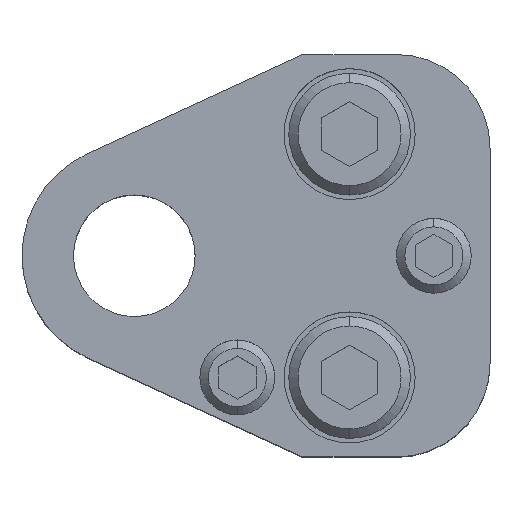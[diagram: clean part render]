
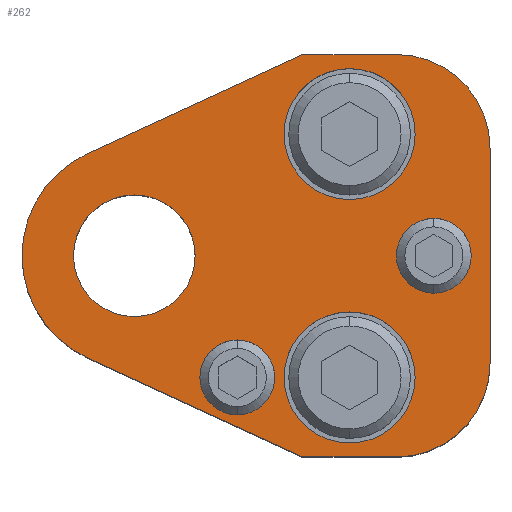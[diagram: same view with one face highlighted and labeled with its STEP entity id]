
A CAD part, top view. The second image highlights one B-rep face of the part: STEP entity #262.
In plain terms, the highlighted planar face has unit normal (0, 0, 1).
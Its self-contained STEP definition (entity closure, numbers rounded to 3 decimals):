
#149=FACE_BOUND('',#571,.T.);
#150=FACE_BOUND('',#572,.T.);
#151=FACE_BOUND('',#573,.T.);
#152=FACE_BOUND('',#574,.T.);
#153=FACE_BOUND('',#575,.T.);
#154=FACE_BOUND('',#576,.T.);
#189=PLANE('',#2275);
#262=ADVANCED_FACE('',(#149,#150,#151,#152,#153,#154),#189,.T.);
#571=EDGE_LOOP('',(#925,#926,#927,#928,#929,#930,#931,#932));
#572=EDGE_LOOP('',(#933,#934));
#573=EDGE_LOOP('',(#935,#936));
#574=EDGE_LOOP('',(#937,#938));
#575=EDGE_LOOP('',(#939,#940));
#576=EDGE_LOOP('',(#941,#942));
#703=CIRCLE('',#2218,12.);
#705=CIRCLE('',#2223,10.);
#707=CIRCLE('',#2227,10.);
#725=CIRCLE('',#2255,7.);
#728=CIRCLE('',#2259,7.);
#729=CIRCLE('',#2262,7.);
#732=CIRCLE('',#2266,7.);
#733=CIRCLE('',#2269,4.);
#734=CIRCLE('',#2270,4.);
#735=CIRCLE('',#2271,4.);
#736=CIRCLE('',#2272,4.);
#737=CIRCLE('',#2273,6.5);
#738=CIRCLE('',#2274,6.5);
#925=ORIENTED_EDGE('',*,*,#1598,.T.);
#926=ORIENTED_EDGE('',*,*,#1602,.T.);
#927=ORIENTED_EDGE('',*,*,#1605,.T.);
#928=ORIENTED_EDGE('',*,*,#1608,.T.);
#929=ORIENTED_EDGE('',*,*,#1611,.T.);
#930=ORIENTED_EDGE('',*,*,#1614,.T.);
#931=ORIENTED_EDGE('',*,*,#1617,.T.);
#932=ORIENTED_EDGE('',*,*,#1620,.T.);
#933=ORIENTED_EDGE('',*,*,#1655,.F.);
#934=ORIENTED_EDGE('',*,*,#1656,.F.);
#935=ORIENTED_EDGE('',*,*,#1657,.F.);
#936=ORIENTED_EDGE('',*,*,#1658,.F.);
#937=ORIENTED_EDGE('',*,*,#1654,.F.);
#938=ORIENTED_EDGE('',*,*,#1650,.F.);
#939=ORIENTED_EDGE('',*,*,#1648,.F.);
#940=ORIENTED_EDGE('',*,*,#1644,.F.);
#941=ORIENTED_EDGE('',*,*,#1659,.F.);
#942=ORIENTED_EDGE('',*,*,#1660,.F.);
#1412=VERTEX_POINT('',#3164);
#1413=VERTEX_POINT('',#3166);
#1416=VERTEX_POINT('',#3173);
#1418=VERTEX_POINT('',#3179);
#1420=VERTEX_POINT('',#3185);
#1422=VERTEX_POINT('',#3191);
#1424=VERTEX_POINT('',#3197);
#1426=VERTEX_POINT('',#3203);
#1443=VERTEX_POINT('',#3256);
#1445=VERTEX_POINT('',#3259);
#1447=VERTEX_POINT('',#3269);
#1449=VERTEX_POINT('',#3272);
#1451=VERTEX_POINT('',#3282);
#1452=VERTEX_POINT('',#3283);
#1453=VERTEX_POINT('',#3286);
#1454=VERTEX_POINT('',#3287);
#1455=VERTEX_POINT('',#3290);
#1456=VERTEX_POINT('',#3291);
#1598=EDGE_CURVE('',#1413,#1412,#703,.T.);
#1602=EDGE_CURVE('',#1412,#1416,#1892,.T.);
#1605=EDGE_CURVE('',#1416,#1418,#1895,.T.);
#1608=EDGE_CURVE('',#1418,#1420,#705,.T.);
#1611=EDGE_CURVE('',#1420,#1422,#1899,.T.);
#1614=EDGE_CURVE('',#1422,#1424,#707,.T.);
#1617=EDGE_CURVE('',#1424,#1426,#1903,.T.);
#1620=EDGE_CURVE('',#1426,#1413,#1906,.T.);
#1644=EDGE_CURVE('',#1443,#1445,#725,.T.);
#1648=EDGE_CURVE('',#1445,#1443,#728,.T.);
#1650=EDGE_CURVE('',#1447,#1449,#729,.T.);
#1654=EDGE_CURVE('',#1449,#1447,#732,.T.);
#1655=EDGE_CURVE('',#1451,#1452,#733,.T.);
#1656=EDGE_CURVE('',#1452,#1451,#734,.T.);
#1657=EDGE_CURVE('',#1453,#1454,#735,.T.);
#1658=EDGE_CURVE('',#1454,#1453,#736,.T.);
#1659=EDGE_CURVE('',#1455,#1456,#737,.T.);
#1660=EDGE_CURVE('',#1456,#1455,#738,.T.);
#1892=LINE('',#3174,#2056);
#1895=LINE('',#3180,#2059);
#1899=LINE('',#3192,#2063);
#1903=LINE('',#3204,#2067);
#1906=LINE('',#3208,#2070);
#2056=VECTOR('',#2488,1.);
#2059=VECTOR('',#2493,1.);
#2063=VECTOR('',#2505,1.);
#2067=VECTOR('',#2517,1.);
#2070=VECTOR('',#2522,1.);
#2218=AXIS2_PLACEMENT_3D('',#3165,#2480,#2481);
#2223=AXIS2_PLACEMENT_3D('',#3186,#2498,#2499);
#2227=AXIS2_PLACEMENT_3D('',#3198,#2510,#2511);
#2255=AXIS2_PLACEMENT_3D('',#3258,#2578,#2579);
#2259=AXIS2_PLACEMENT_3D('',#3265,#2587,#2588);
#2262=AXIS2_PLACEMENT_3D('',#3271,#2594,#2595);
#2266=AXIS2_PLACEMENT_3D('',#3278,#2603,#2604);
#2269=AXIS2_PLACEMENT_3D('',#3281,#2609,#2610);
#2270=AXIS2_PLACEMENT_3D('',#3284,#2611,#2612);
#2271=AXIS2_PLACEMENT_3D('',#3285,#2613,#2614);
#2272=AXIS2_PLACEMENT_3D('',#3288,#2615,#2616);
#2273=AXIS2_PLACEMENT_3D('',#3289,#2617,#2618);
#2274=AXIS2_PLACEMENT_3D('',#3292,#2619,#2620);
#2275=AXIS2_PLACEMENT_3D('',#3293,#2621,#2622);
#2480=DIRECTION('',(0.,0.,1.));
#2481=DIRECTION('',(0.,1.,0.));
#2488=DIRECTION('',(0.908,-0.418,0.));
#2493=DIRECTION('',(1.,0.,0.));
#2498=DIRECTION('',(0.,0.,1.));
#2499=DIRECTION('',(-0.707,0.707,0.));
#2505=DIRECTION('',(0.,1.,0.));
#2510=DIRECTION('',(0.,0.,1.));
#2511=DIRECTION('',(-0.707,-0.707,0.));
#2517=DIRECTION('',(-1.,0.,0.));
#2522=DIRECTION('',(-0.908,-0.418,0.));
#2578=DIRECTION('',(0.,0.,1.));
#2579=DIRECTION('',(-1.,0.,0.));
#2587=DIRECTION('',(0.,0.,1.));
#2588=DIRECTION('',(1.,0.,0.));
#2594=DIRECTION('',(0.,0.,1.));
#2595=DIRECTION('',(-1.,0.,0.));
#2603=DIRECTION('',(0.,0.,1.));
#2604=DIRECTION('',(1.,0.,0.));
#2609=DIRECTION('',(0.,0.,1.));
#2610=DIRECTION('',(1.,0.,0.));
#2611=DIRECTION('',(0.,0.,1.));
#2612=DIRECTION('',(-1.,0.,0.));
#2613=DIRECTION('',(0.,0.,1.));
#2614=DIRECTION('',(1.,0.,0.));
#2615=DIRECTION('',(0.,0.,1.));
#2616=DIRECTION('',(-1.,0.,0.));
#2617=DIRECTION('',(0.,0.,1.));
#2618=DIRECTION('',(-1.,0.,0.));
#2619=DIRECTION('',(0.,0.,1.));
#2620=DIRECTION('',(1.,0.,0.));
#2621=DIRECTION('',(0.,0.,1.));
#2622=DIRECTION('',(0.908,0.418,0.));
#3164=CARTESIAN_POINT('',(-5.019,-10.9,30.));
#3165=CARTESIAN_POINT('',(0.,0.,30.));
#3166=CARTESIAN_POINT('',(-5.019,10.9,30.));
#3173=CARTESIAN_POINT('',(18.,-21.5,30.));
#3174=CARTESIAN_POINT('',(18.,-21.5,30.));
#3179=CARTESIAN_POINT('',(28.,-21.5,30.));
#3180=CARTESIAN_POINT('',(18.,-21.5,30.));
#3185=CARTESIAN_POINT('',(38.,-11.5,30.));
#3186=CARTESIAN_POINT('',(28.,-11.5,30.));
#3191=CARTESIAN_POINT('',(38.,11.5,30.));
#3192=CARTESIAN_POINT('',(38.,-11.5,30.));
#3197=CARTESIAN_POINT('',(28.,21.5,30.));
#3198=CARTESIAN_POINT('',(28.,11.5,30.));
#3203=CARTESIAN_POINT('',(18.,21.5,30.));
#3204=CARTESIAN_POINT('',(18.,21.5,30.));
#3208=CARTESIAN_POINT('',(18.,21.5,30.));
#3256=CARTESIAN_POINT('',(23.,6.,30.));
#3258=CARTESIAN_POINT('',(23.,13.,30.));
#3259=CARTESIAN_POINT('',(23.,20.,30.));
#3265=CARTESIAN_POINT('',(23.,13.,30.));
#3269=CARTESIAN_POINT('',(23.,-20.,30.));
#3271=CARTESIAN_POINT('',(23.,-13.,30.));
#3272=CARTESIAN_POINT('',(23.,-6.,30.));
#3278=CARTESIAN_POINT('',(23.,-13.,30.));
#3281=CARTESIAN_POINT('',(32.,0.,30.));
#3282=CARTESIAN_POINT('',(32.,4.,30.));
#3283=CARTESIAN_POINT('',(32.,-4.,30.));
#3284=CARTESIAN_POINT('',(32.,0.,30.));
#3285=CARTESIAN_POINT('',(11.,-13.,30.));
#3286=CARTESIAN_POINT('',(11.,-9.,30.));
#3287=CARTESIAN_POINT('',(11.,-17.,30.));
#3288=CARTESIAN_POINT('',(11.,-13.,30.));
#3289=CARTESIAN_POINT('',(0.,0.,30.));
#3290=CARTESIAN_POINT('',(0.,-6.5,30.));
#3291=CARTESIAN_POINT('',(0.,6.5,30.));
#3292=CARTESIAN_POINT('',(0.,0.,30.));
#3293=CARTESIAN_POINT('',(-5.019,10.9,30.));
